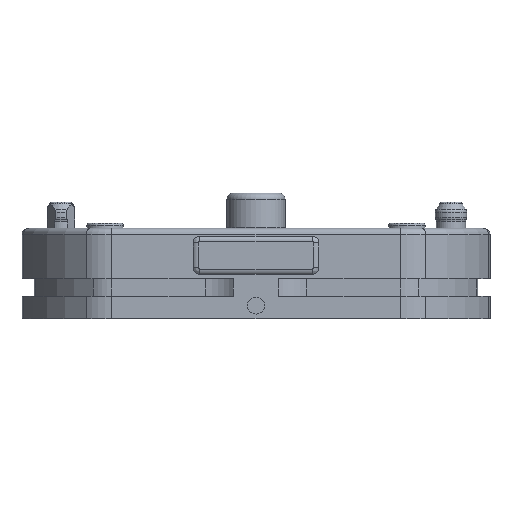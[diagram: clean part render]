
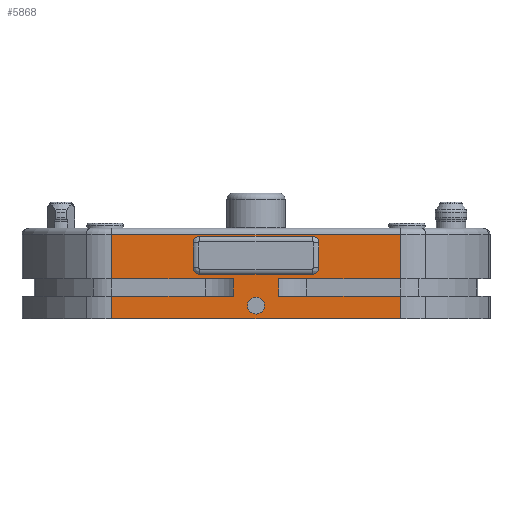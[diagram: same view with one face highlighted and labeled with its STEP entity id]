
A CAD part, front view. The second image highlights one B-rep face of the part: STEP entity #5868.
In plain terms, the highlighted planar face has unit normal (0, -1, 0).
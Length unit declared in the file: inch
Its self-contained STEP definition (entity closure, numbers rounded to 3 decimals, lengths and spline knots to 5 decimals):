
#239=LINE('',#9671,#651);
#240=LINE('',#9676,#652);
#241=LINE('',#9680,#653);
#242=LINE('',#9685,#654);
#243=LINE('',#9689,#655);
#244=LINE('',#9690,#656);
#245=LINE('',#9693,#657);
#249=LINE('',#9707,#661);
#252=LINE('',#9715,#664);
#255=LINE('',#9723,#667);
#258=LINE('',#9730,#670);
#259=LINE('',#9733,#671);
#263=LINE('',#9764,#675);
#280=LINE('',#9816,#692);
#281=LINE('',#9819,#693);
#282=LINE('',#9820,#694);
#651=VECTOR('',#7665,0.3937);
#652=VECTOR('',#7670,0.3937);
#653=VECTOR('',#7675,0.3937);
#654=VECTOR('',#7682,0.3937);
#655=VECTOR('',#7687,0.3937);
#656=VECTOR('',#7688,0.3937);
#657=VECTOR('',#7691,0.3937);
#661=VECTOR('',#7707,0.3937);
#664=VECTOR('',#7716,0.3937);
#667=VECTOR('',#7725,0.3937);
#670=VECTOR('',#7734,0.3937);
#671=VECTOR('',#7737,0.3937);
#675=VECTOR('',#7765,0.3937);
#692=VECTOR('',#7826,0.3937);
#693=VECTOR('',#7829,0.3937);
#694=VECTOR('',#7830,0.3937);
#1142=FACE_BOUND('',#1667,.T.);
#1143=FACE_BOUND('',#1668,.T.);
#1296=FACE_OUTER_BOUND('',#1666,.T.);
#1666=EDGE_LOOP('',(#4506,#4507,#4508,#4509,#4510,#4511,#4512,#4513,#4514,
#4515,#4516,#4517));
#1667=EDGE_LOOP('',(#4518,#4519,#4520,#4521,#4522,#4523,#4524,#4525));
#1668=EDGE_LOOP('',(#4526));
#2068=CIRCLE('',#6462,0.1695);
#2069=CIRCLE('',#6464,0.13);
#2070=CIRCLE('',#6467,0.13);
#2071=CIRCLE('',#6470,0.13);
#2072=CIRCLE('',#6473,0.13);
#2569=VERTEX_POINT('',#9667);
#2570=VERTEX_POINT('',#9669);
#2571=VERTEX_POINT('',#9673);
#2572=VERTEX_POINT('',#9675);
#2573=VERTEX_POINT('',#9679);
#2574=VERTEX_POINT('',#9683);
#2575=VERTEX_POINT('',#9687);
#2576=VERTEX_POINT('',#9692);
#2577=VERTEX_POINT('',#9696);
#2578=VERTEX_POINT('',#9700);
#2579=VERTEX_POINT('',#9701);
#2580=VERTEX_POINT('',#9706);
#2581=VERTEX_POINT('',#9710);
#2582=VERTEX_POINT('',#9714);
#2583=VERTEX_POINT('',#9718);
#2584=VERTEX_POINT('',#9722);
#2585=VERTEX_POINT('',#9726);
#2586=VERTEX_POINT('',#9732);
#2601=VERTEX_POINT('',#9762);
#2614=VERTEX_POINT('',#9814);
#2615=VERTEX_POINT('',#9818);
#3232=EDGE_CURVE('',#2569,#2570,#239,.T.);
#3234=EDGE_CURVE('',#2571,#2572,#240,.T.);
#3236=EDGE_CURVE('',#2573,#2572,#241,.T.);
#3239=EDGE_CURVE('',#2573,#2574,#242,.T.);
#3241=EDGE_CURVE('',#2571,#2569,#243,.T.);
#3242=EDGE_CURVE('',#2575,#2574,#244,.T.);
#3243=EDGE_CURVE('',#2576,#2575,#245,.T.);
#3245=EDGE_CURVE('',#2577,#2577,#2068,.T.);
#3247=EDGE_CURVE('',#2578,#2579,#2069,.T.);
#3250=EDGE_CURVE('',#2580,#2578,#249,.T.);
#3252=EDGE_CURVE('',#2581,#2580,#2070,.T.);
#3254=EDGE_CURVE('',#2582,#2581,#252,.T.);
#3256=EDGE_CURVE('',#2583,#2582,#2071,.T.);
#3258=EDGE_CURVE('',#2584,#2583,#255,.T.);
#3260=EDGE_CURVE('',#2585,#2584,#2072,.T.);
#3262=EDGE_CURVE('',#2579,#2585,#258,.T.);
#3263=EDGE_CURVE('',#2586,#2576,#259,.T.);
#3279=EDGE_CURVE('',#2570,#2601,#263,.T.);
#3305=EDGE_CURVE('',#2614,#2601,#280,.T.);
#3306=EDGE_CURVE('',#2615,#2614,#281,.T.);
#3307=EDGE_CURVE('',#2586,#2615,#282,.T.);
#4506=ORIENTED_EDGE('',*,*,#3306,.F.);
#4507=ORIENTED_EDGE('',*,*,#3307,.F.);
#4508=ORIENTED_EDGE('',*,*,#3263,.T.);
#4509=ORIENTED_EDGE('',*,*,#3243,.T.);
#4510=ORIENTED_EDGE('',*,*,#3242,.T.);
#4511=ORIENTED_EDGE('',*,*,#3239,.F.);
#4512=ORIENTED_EDGE('',*,*,#3236,.T.);
#4513=ORIENTED_EDGE('',*,*,#3234,.F.);
#4514=ORIENTED_EDGE('',*,*,#3241,.T.);
#4515=ORIENTED_EDGE('',*,*,#3232,.T.);
#4516=ORIENTED_EDGE('',*,*,#3279,.T.);
#4517=ORIENTED_EDGE('',*,*,#3305,.F.);
#4518=ORIENTED_EDGE('',*,*,#3262,.T.);
#4519=ORIENTED_EDGE('',*,*,#3260,.T.);
#4520=ORIENTED_EDGE('',*,*,#3258,.T.);
#4521=ORIENTED_EDGE('',*,*,#3256,.T.);
#4522=ORIENTED_EDGE('',*,*,#3254,.T.);
#4523=ORIENTED_EDGE('',*,*,#3252,.T.);
#4524=ORIENTED_EDGE('',*,*,#3250,.T.);
#4525=ORIENTED_EDGE('',*,*,#3247,.T.);
#4526=ORIENTED_EDGE('',*,*,#3245,.T.);
#5681=PLANE('',#6510);
#5868=ADVANCED_FACE('',(#1296,#1142,#1143),#5681,.T.);
#6462=AXIS2_PLACEMENT_3D('',#9697,#7696,#7697);
#6464=AXIS2_PLACEMENT_3D('',#9702,#7701,#7702);
#6467=AXIS2_PLACEMENT_3D('',#9711,#7711,#7712);
#6470=AXIS2_PLACEMENT_3D('',#9719,#7720,#7721);
#6473=AXIS2_PLACEMENT_3D('',#9727,#7729,#7730);
#6510=AXIS2_PLACEMENT_3D('',#9817,#7827,#7828);
#7665=DIRECTION('',(0.,0.,1.));
#7670=DIRECTION('',(0.,0.,-1.));
#7675=DIRECTION('',(1.,0.,0.));
#7682=DIRECTION('',(0.,0.,1.));
#7687=DIRECTION('',(-1.,0.,0.));
#7688=DIRECTION('',(-1.,0.,0.));
#7691=DIRECTION('',(0.,0.,-1.));
#7696=DIRECTION('center_axis',(0.,1.,0.));
#7697=DIRECTION('ref_axis',(1.,0.,0.));
#7701=DIRECTION('center_axis',(0.,1.,0.));
#7702=DIRECTION('ref_axis',(0.,0.,1.));
#7707=DIRECTION('',(0.,0.,1.));
#7711=DIRECTION('center_axis',(0.,1.,0.));
#7712=DIRECTION('ref_axis',(-1.,0.,0.));
#7716=DIRECTION('',(-1.,0.,0.));
#7720=DIRECTION('center_axis',(0.,1.,0.));
#7721=DIRECTION('ref_axis',(0.,0.,-1.));
#7725=DIRECTION('',(0.,0.,-1.));
#7729=DIRECTION('center_axis',(0.,1.,0.));
#7730=DIRECTION('ref_axis',(1.,0.,0.));
#7734=DIRECTION('',(1.,0.,0.));
#7737=DIRECTION('',(1.,0.,0.));
#7765=DIRECTION('',(1.,0.,0.));
#7826=DIRECTION('',(0.,0.,-1.));
#7827=DIRECTION('center_axis',(0.,-1.,0.));
#7828=DIRECTION('ref_axis',(1.,0.,0.));
#7829=DIRECTION('',(1.,0.,0.));
#7830=DIRECTION('',(0.,0.,1.));
#9667=CARTESIAN_POINT('',(0.45009,-2.875,0.45));
#9669=CARTESIAN_POINT('',(0.45009,-2.875,0.8));
#9671=CARTESIAN_POINT('',(0.45009,-2.875,0.45));
#9673=CARTESIAN_POINT('',(2.86774,-2.875,0.45));
#9675=CARTESIAN_POINT('',(2.86774,-2.875,0.));
#9676=CARTESIAN_POINT('',(2.86774,-2.875,0.));
#9679=CARTESIAN_POINT('',(-2.86774,-2.875,0.));
#9680=CARTESIAN_POINT('',(-3.125,-2.875,0.));
#9683=CARTESIAN_POINT('',(-2.86774,-2.875,0.45));
#9685=CARTESIAN_POINT('',(-2.86774,-2.875,0.));
#9687=CARTESIAN_POINT('',(-0.45009,-2.875,0.45));
#9689=CARTESIAN_POINT('',(-1.5625,-2.875,0.45));
#9690=CARTESIAN_POINT('',(-1.5625,-2.875,0.45));
#9692=CARTESIAN_POINT('',(-0.45009,-2.875,0.8));
#9693=CARTESIAN_POINT('',(-0.45009,-2.875,0.45));
#9696=CARTESIAN_POINT('',(-0.1695,-2.875,0.2645));
#9697=CARTESIAN_POINT('Origin',(0.,-2.875,0.2645));
#9700=CARTESIAN_POINT('',(-1.25,-2.875,1.51));
#9701=CARTESIAN_POINT('',(-1.12,-2.875,1.64));
#9702=CARTESIAN_POINT('Origin',(-1.12,-2.875,1.51));
#9706=CARTESIAN_POINT('',(-1.25,-2.875,1.02));
#9707=CARTESIAN_POINT('',(-1.25,-2.875,0.51));
#9710=CARTESIAN_POINT('',(-1.12,-2.875,0.89));
#9711=CARTESIAN_POINT('Origin',(-1.12,-2.875,1.02));
#9714=CARTESIAN_POINT('',(1.12,-2.875,0.89));
#9715=CARTESIAN_POINT('',(-1.0025,-2.875,0.89));
#9718=CARTESIAN_POINT('',(1.25,-2.875,1.02));
#9719=CARTESIAN_POINT('Origin',(1.12,-2.875,1.02));
#9722=CARTESIAN_POINT('',(1.25,-2.875,1.51));
#9723=CARTESIAN_POINT('',(1.25,-2.875,0.755));
#9726=CARTESIAN_POINT('',(1.12,-2.875,1.64));
#9727=CARTESIAN_POINT('Origin',(1.12,-2.875,1.51));
#9730=CARTESIAN_POINT('',(-2.1225,-2.875,1.64));
#9732=CARTESIAN_POINT('',(-2.86774,-2.875,0.8));
#9733=CARTESIAN_POINT('',(-1.5625,-2.875,0.8));
#9762=CARTESIAN_POINT('',(2.86774,-2.875,0.8));
#9764=CARTESIAN_POINT('',(-1.5625,-2.875,0.8));
#9814=CARTESIAN_POINT('',(2.86774,-2.875,1.675));
#9816=CARTESIAN_POINT('',(2.86774,-2.875,0.));
#9817=CARTESIAN_POINT('Origin',(-3.125,-2.875,0.));
#9818=CARTESIAN_POINT('',(-2.86774,-2.875,1.675));
#9819=CARTESIAN_POINT('',(-1.5625,-2.875,1.675));
#9820=CARTESIAN_POINT('',(-2.86774,-2.875,0.));
